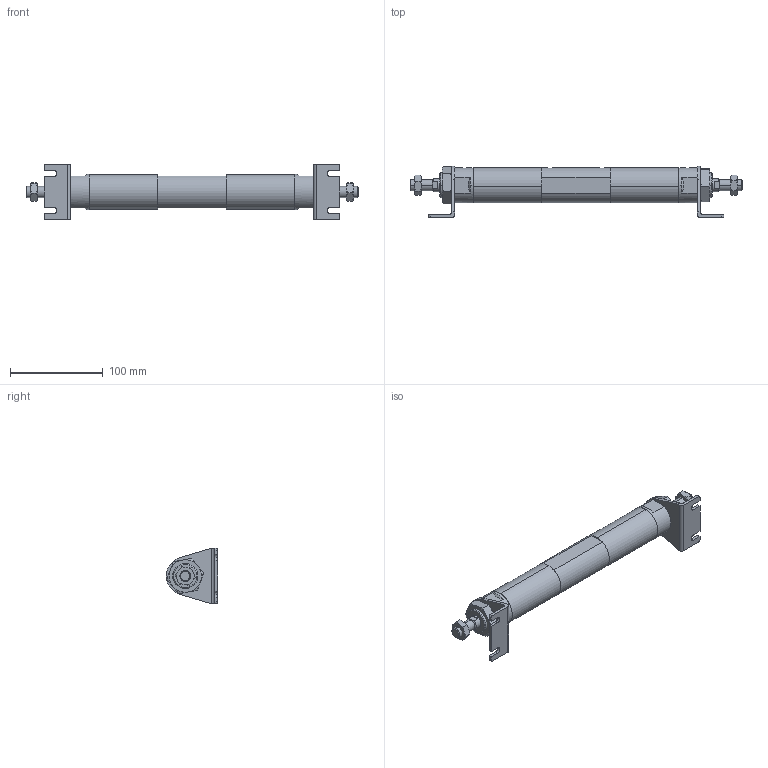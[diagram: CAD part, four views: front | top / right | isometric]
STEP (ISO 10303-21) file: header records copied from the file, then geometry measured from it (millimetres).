
FILE_DESCRIPTION (( 'STEP AP203' ), '1' );
FILE_NAME ('JGD7-32-25-25-L.STEP', '2016-04-19T07:24:14', ( '' ), ( '' ), 'SwSTEP 2.0', 'SolidWorks 2014', '' );
FILE_SCHEMA (( 'CONFIG_CONTROL_DESIGN' ));
Length unit declared in the file: millimetre
Products named in the file (7): JGD7-32-25-25-L; J#2-32-L; 32-25; M27x2-10mm; M12x1.25-7mm; JGD2-32MI; JGLH2-32B
Assembly tree (11 placements, depth 2):
  JGD7-32-25-25-L
    JGLH2-32B  x2
    32-25  x2
    M12x1.25-7mm  x2
    J#2-32-L  x2
    M27x2-10mm  x2
    JGD2-32MI
Bounding box: 358 x 55.5 x 60 mm (x, y, z)
Volume: 344441.6 mm3; surface area: 73104.4 mm2
Topology: 11 solids, 11 shells, 226 faces, 522 edges, 318 vertices
Faces by surface type: plane 90, cylinder 62, torus 48, cone 26
Entity records: 4781 total; most frequent: CARTESIAN_POINT 1234, DIRECTION 576, ORIENTED_EDGE 542, EDGE_CURVE 271, AXIS2_PLACEMENT_3D 232, VERTEX_POINT 168, EDGE_LOOP 131, ADVANCED_FACE 120
